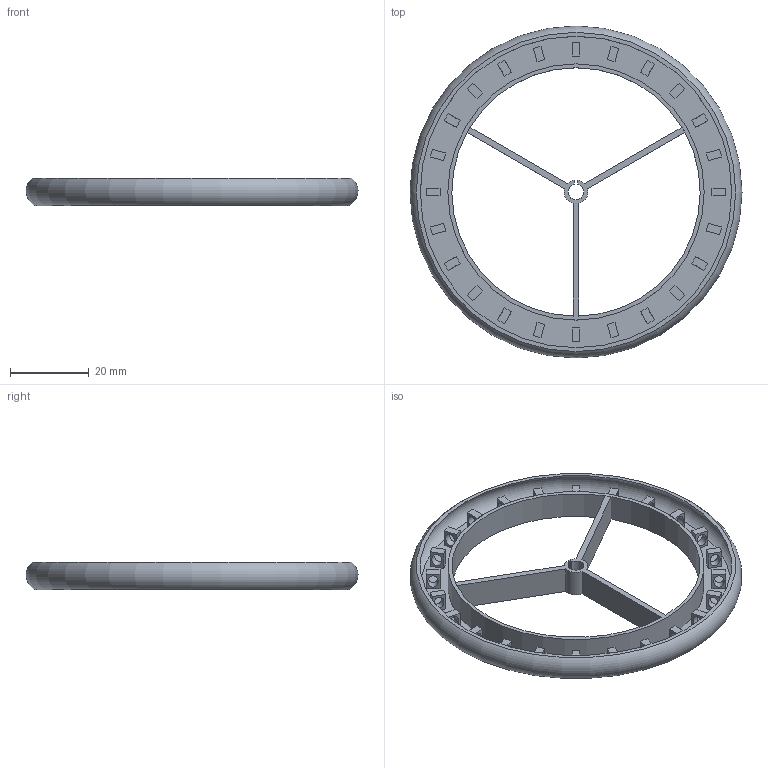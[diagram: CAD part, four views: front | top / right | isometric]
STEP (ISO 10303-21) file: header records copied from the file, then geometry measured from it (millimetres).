
FILE_DESCRIPTION(/* description */ (''),/* implementation_level */ '2;1');
FILE_NAME(/* name */ 'C:/Users/priba/Documents/Temp/Backup/Wheel4-80 v3.step',/* time_stamp */ '2019-07-02T19:22:39+02:00',/* author */ (''),/* organization */ (''),/* preprocessor_version */ 'ST-DEVELOPER v18',/* originating_system */ 'Autodesk Translation Framework v8.2.0.1029',/* authorisation */ '');
FILE_SCHEMA (('AUTOMOTIVE_DESIGN { 1 0 10303 214 3 1 1 }'));
Length unit declared in the file: millimetre
Products named in the file (2): Wheel4-80; WheelTyre
Assembly tree (1 placements, depth 2):
  Wheel4-80
    WheelTyre
Bounding box: 84.23 x 84.23 x 7 mm (x, y, z)
Volume: 4719.9 mm3; surface area: 13856 mm2
Topology: 1 solids, 1 shells, 171 faces, 435 edges, 292 vertices
Faces by surface type: plane 134, bspline 24, cylinder 11, torus 2
Full cylindrical faces by diameter (mm): 65 x1
Entity records: 5620 total; most frequent: CARTESIAN_POINT 1309, ORIENTED_EDGE 870, DIRECTION 817, EDGE_CURVE 435, LINE 353, VECTOR 353, VERTEX_POINT 292, EDGE_LOOP 255
